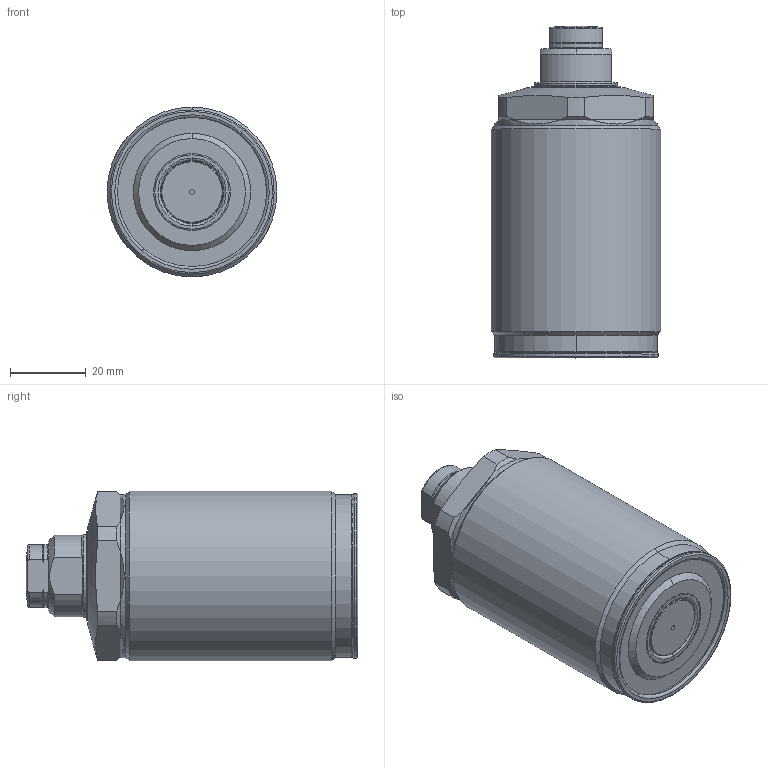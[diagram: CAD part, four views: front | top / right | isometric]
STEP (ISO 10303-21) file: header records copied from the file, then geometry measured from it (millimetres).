
FILE_DESCRIPTION(/* description */ (''),/* implementation_level */ '2;1');
FILE_NAME(/* name */ 'GSC06.stp',/* time_stamp */ '2025-01-09T16:45:40+08:00',/* author */ (''),/* organization */ (''),/* preprocessor_version */ 'ST-DEVELOPER v16.7',/* originating_system */ 'SIEMENS PLM Software NX 12.0',/* authorisation */ '');
FILE_SCHEMA (('AUTOMOTIVE_DESIGN { 1 0 10303 214 3 1 1 1 }'));
Length unit declared in the file: millimetre
Products named in the file (8): TNC0403_ContactBolt_M12; AS012; GSC06-05; GSC06-04; GSC06-02; GSC06-01; GSC06-03; GSC06_stp
Assembly tree (7 placements, depth 3):
  GSC06_stp
    GSC06-01
    GSC06-02
    GSC06-03
      AS012
      TNC0403_ContactBolt_M12
    GSC06-04
    GSC06-05
Bounding box: 45 x 87.9 x 45 mm (x, y, z)
Volume: 117687.4 mm3; surface area: 18245.5 mm2
Topology: 6 solids, 6 shells, 149 faces, 328 edges, 198 vertices
Faces by surface type: cylinder 47, torus 36, plane 36, cone 28, sphere 2
Full cylindrical faces by diameter (mm): 43.2 x1, 45 x1
Entity records: 4469 total; most frequent: CARTESIAN_POINT 917, DIRECTION 797, ORIENTED_EDGE 648, AXIS2_PLACEMENT_3D 356, EDGE_CURVE 324, VERTEX_POINT 198, CIRCLE 193, EDGE_LOOP 168
